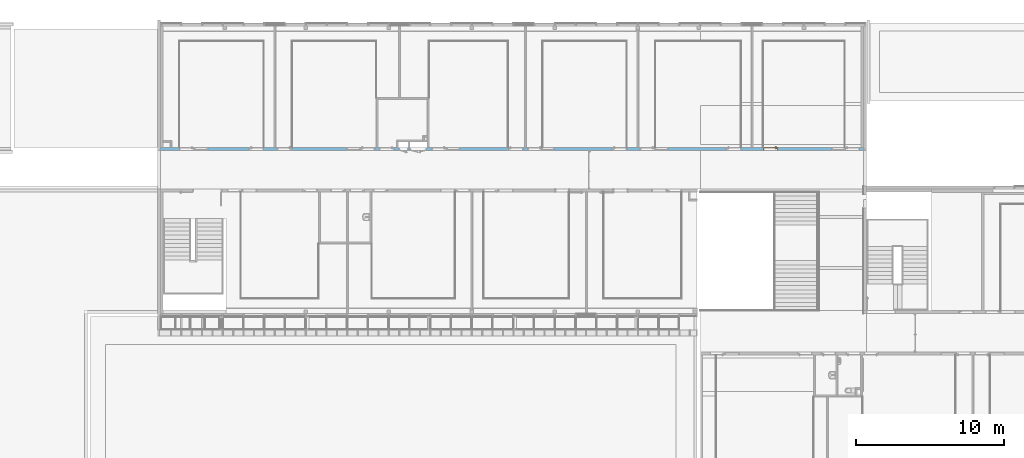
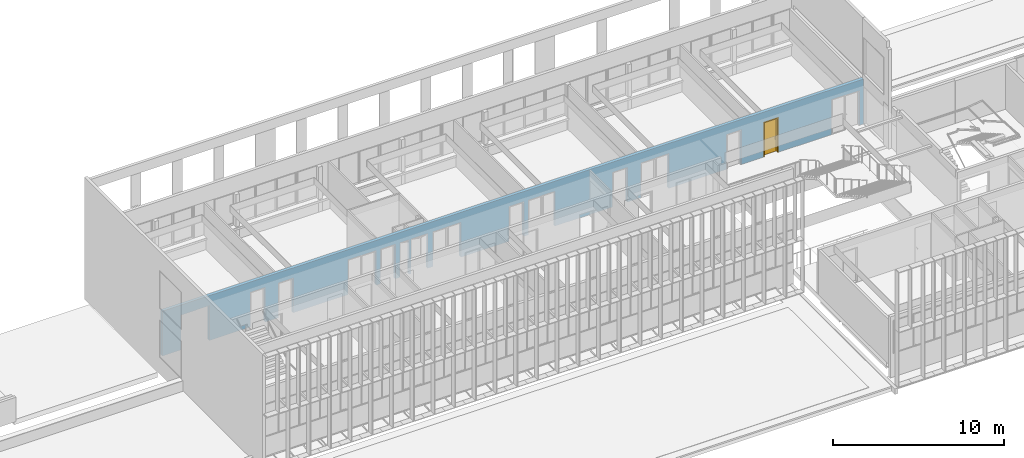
# One storey, part 59 of 106: 1 door, 21 openings, plus 1 element that does not belong to this part.
"""IFC2X3 building model written with IfcOpenShell, lengths in centimetres."""

from ifc_helpers import new_model, entity, si_unit, converted_unit, derived_unit, direction, frame, frame_2d, origin, place, context, subcontext, project, spatial, polyline, rectangle, extrude, clip, bounded_halfspace, faceted_brep, source, transform, mapped, material, material_list, layer, layer_set, layer_usage, type_object, type_shapes, element, fill, save


model = new_model("IFC2X3")

# Units and contexts
model_context = context("Model", 3, precision=0.001, world=origin(), true_north=direction((6.12303176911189e-17, 1.0)))
body_context = subcontext(model_context, "Body", "Model", "MODEL_VIEW")
ifc_project = project(units=[si_unit("LENGTHUNIT", "METRE", prefix="CENTI"), si_unit("AREAUNIT", "SQUARE_METRE"), si_unit("VOLUMEUNIT", "CUBIC_METRE"), converted_unit("PLANEANGLEUNIT", "DEGREE", entity("IfcRatioMeasure", 0.0174532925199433), si_unit("PLANEANGLEUNIT", "RADIAN"), dimensions=[0, 0, 0, 0, 0, 0, 0]), si_unit("MASSUNIT", "GRAM", prefix="KILO"), derived_unit("MASSDENSITYUNIT", [(si_unit("MASSUNIT", "GRAM", prefix="KILO"), 1), (si_unit("LENGTHUNIT", "METRE"), -3)]), si_unit("TIMEUNIT", "SECOND"), si_unit("FREQUENCYUNIT", "HERTZ"), si_unit("THERMODYNAMICTEMPERATUREUNIT", "DEGREE_CELSIUS"), derived_unit("THERMALTRANSMITTANCEUNIT", [(si_unit("MASSUNIT", "GRAM", prefix="KILO"), 1), (si_unit("THERMODYNAMICTEMPERATUREUNIT", "KELVIN"), -1), (si_unit("TIMEUNIT", "SECOND"), -3)]), derived_unit("VOLUMETRICFLOWRATEUNIT", [(si_unit("LENGTHUNIT", "METRE"), 3), (si_unit("TIMEUNIT", "SECOND"), -1)]), si_unit("ELECTRICCURRENTUNIT", "AMPERE"), si_unit("ELECTRICVOLTAGEUNIT", "VOLT"), si_unit("POWERUNIT", "WATT"), si_unit("FORCEUNIT", "NEWTON", prefix="KILO"), si_unit("ILLUMINANCEUNIT", "LUX"), si_unit("LUMINOUSFLUXUNIT", "LUMEN"), si_unit("LUMINOUSINTENSITYUNIT", "CANDELA"), derived_unit("USERDEFINED", [(si_unit("MASSUNIT", "GRAM", prefix="KILO"), -1), (si_unit("LENGTHUNIT", "METRE"), -2), (si_unit("TIMEUNIT", "SECOND"), 3), (si_unit("LUMINOUSFLUXUNIT", "LUMEN"), 1)]), derived_unit("LINEARVELOCITYUNIT", [(si_unit("LENGTHUNIT", "METRE"), 1), (si_unit("TIMEUNIT", "SECOND"), -1)]), si_unit("PRESSUREUNIT", "PASCAL"), derived_unit("USERDEFINED", [(si_unit("LENGTHUNIT", "METRE"), -2), (si_unit("MASSUNIT", "GRAM", prefix="KILO"), 1), (si_unit("TIMEUNIT", "SECOND"), -2)])], contexts=[model_context])

# Site, building, storey
site_placement = place(None, frame((-2781.94577612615, 7442.24238424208, 0.0)))
site = spatial("IfcSite", under=ifc_project, at=site_placement, Name="Default", CompositionType="ELEMENT")
building_placement = place(site_placement, origin())
building = spatial("IfcBuilding", under=site, at=building_placement, CompositionType="ELEMENT")
storey_placement = place(building_placement, frame((0.0, 0.0, 422.0)))
storey = spatial("IfcBuildingStorey", under=building, at=storey_placement, Name="Toiture - Cuisine", CompositionType="ELEMENT", Elevation=421.999999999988)

# Wall, openings, door
ifc_material_1 = material(Name="01 - Maçonnerie")
ifc_layer = layer(ifc_material_1, 20.0)
ifc_layer_set = layer_set([ifc_layer], Name="Mur de base:04 - Structure - béton - 20cm")
ifc_layer_usage = layer_usage(ifc_layer_set, "AXIS2", "NEGATIVE", 10.0)
wall_type = type_object("IfcWallType", Name="Mur de base:04 - Structure - béton - 20cm", PredefinedType="STANDARD", material=ifc_layer_set)
wall_placement = place(building_placement, frame((-8409.49987766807, -820.048500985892, 422.0)))
wall = element("IfcWallStandardCase", 1, at=wall_placement, inside=storey, type_object=wall_type, material=ifc_layer_usage, Name="Mur de base:04 - Structure - béton - 20cm", ObjectType="Mur de base:04 - Structure - béton - 20cm", context=body_context, shape_type="Clipping", body=[
    clip(extrude(rectangle(XDim=4741.49999798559, YDim=20.0, at=frame_2d((2370.74999899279, 2.04281036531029e-14), x_axis=(-1.0, 0.0))), origin(), (0.0, 0.0, 1.0), 321.0), bounded_halfspace(frame((4741.49999798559, -10.0, 321.0), z_axis=(0.0, 0.0, -1.0), x_axis=(0.0, 1.0, 0.0)), True, frame((4741.49999798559, -10.0, 321.0)), polyline([(0.0, 0.0), (0.0, 20.0), (-15.3000000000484, 20.0), (-125.300000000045, 20.0), (-127.300000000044, 20.0), (-675.800000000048, 20.0), (-677.800000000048, 20.0), (-745.800000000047, 20.0), (-755.800000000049, 20.0), (-825.800000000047, 20.0), (-827.800000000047, 20.0), (-1403.80000000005, 20.0), (-1405.80000000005, 20.0), (-1516.49999791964, 20.0), (-1526.49999791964, 20.0), (-1595.78709704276, 20.0), (-1597.78709704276, 20.0), (-2163.80000000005, 20.0), (-2165.80000000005, 20.0), (-2275.80000000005, 20.0), (-2285.80000000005, 20.0), (-2395.80000000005, 20.0), (-2397.80000000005, 20.0), (-2931.80000000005, 20.0), (-2941.80000000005, 20.0), (-3060.80000000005, 20.0), (-3070.80000000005, 20.0), (-3137.80000000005, 20.0), (-3147.80000000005, 20.0), (-3275.80000000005, 20.0), (-3285.80000000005, 20.0), (-3416.49999791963, 20.0), (-3535.80000000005, 20.0), (-3545.80000000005, 20.0), (-3611.80000000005, 20.0), (-3853.80000000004, 20.0), (-3855.80000000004, 20.0), (-3965.80000000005, 20.0), (-3975.80000000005, 20.0), (-4044.30000000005, 20.0), (-4046.30000000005, 20.0), (-4614.19999798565, 20.0), (-4616.19999798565, 20.0), (-4666.19999798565, 20.0), (-4676.19999798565, 20.0), (-4726.19999798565, 20.0), (-4741.49999798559, 20.0), (-4741.49999798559, 0.0), (-1854.0, 0.0), (-1844.0, 0.0), (-1840.0, 0.0), (0.0, 0.0)]))),
])
opening_1_placement = place(wall_placement, frame((1669.50000006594, 10.0, 0.0)))
element("IfcOpeningElement", 2, at=opening_1_placement, cuts=wall, Name="Int. Simple:PP Placard (0.55m x 2.50m):1", ObjectType="Opening", context=body_context, shape_type="SweptSolid", body=[
    extrude(rectangle(XDim=248.500000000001, YDim=61.9999999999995, at=frame_2d((124.250000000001, 30.9999999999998), x_axis=(1.0, 0.0))), frame((0.0, 0.0, 0.0), z_axis=(0.0, -1.0, 0.0), x_axis=(0.0, 0.0, 1.0)), (0.0, 0.0, 1.0), 20.0),
])
opening_2_placement = place(wall_placement, frame((1794.50000006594, 10.0, 0.0)))
element("IfcOpeningElement", 3, at=opening_2_placement, cuts=wall, Name="Int. Double:PP Placard (1.05m x 2.50m):1", ObjectType="Opening", context=body_context, shape_type="SweptSolid", body=[
    extrude(rectangle(XDim=248.500000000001, YDim=112.0, at=frame_2d((124.250000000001, 56.0000000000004), x_axis=(1.0, 0.0))), frame((0.0, 0.0, 0.0), z_axis=(0.0, -1.0, 0.0), x_axis=(0.0, 0.0, 1.0)), (0.0, 0.0, 1.0), 20.0),
])
opening_3_placement = place(wall_placement, frame((126.799999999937, -10.0, 0.0)))
element("IfcOpeningElement", 4, at=opening_3_placement, cuts=wall, Name="Int. Simple:PV (0.93m x 2.50m):1", ObjectType="Opening", context=body_context, shape_type="SweptSolid", body=[
    extrude(rectangle(XDim=248.500000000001, YDim=99.9999999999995, at=frame_2d((124.250000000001, 50.0), x_axis=(1.0, 0.0))), frame((0.0, 0.0, 0.0), z_axis=(0.0, 1.0, 0.0), x_axis=(0.0, 0.0, 1.0)), (0.0, 0.0, 1.0), 20.0),
])
opening_4_placement = place(wall_placement, frame((595.699997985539, -10.0, 0.0)))
element("IfcOpeningElement", 5, at=opening_4_placement, cuts=wall, Name="Int. Simple:PV (0.93m x 2.50m):1", ObjectType="Opening", context=body_context, shape_type="SweptSolid", body=[
    extrude(rectangle(XDim=248.500000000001, YDim=99.9999999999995, at=frame_2d((124.250000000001, 49.9999999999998), x_axis=(1.0, 0.0))), frame((0.0, 0.0, 0.0), z_axis=(0.0, 1.0, 0.0), x_axis=(0.0, 0.0, 1.0)), (0.0, 0.0, 1.0), 20.0),
])
opening_5_placement = place(wall_placement, frame((785.699997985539, -10.0, 0.0)))
element("IfcOpeningElement", 6, at=opening_5_placement, cuts=wall, Name="Int. Simple:PV (0.93m x 2.50m):1", ObjectType="Opening", context=body_context, shape_type="SweptSolid", body=[
    extrude(rectangle(XDim=248.500000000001, YDim=99.9999999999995, at=frame_2d((124.250000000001, 50.0), x_axis=(1.0, 0.0))), frame((0.0, 0.0, 0.0), z_axis=(0.0, 1.0, 0.0), x_axis=(0.0, 0.0, 1.0)), (0.0, 0.0, 1.0), 20.0),
])
opening_6_placement = place(wall_placement, frame((1345.69999798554, -10.0, 0.0)))
element("IfcOpeningElement", 7, at=opening_6_placement, cuts=wall, Name="Int. Simple:PV (0.93m x 2.50m):1", ObjectType="Opening", context=body_context, shape_type="SweptSolid", body=[
    extrude(rectangle(XDim=248.500000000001, YDim=99.9999999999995, at=frame_2d((124.250000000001, 49.9999999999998), x_axis=(1.0, 0.0))), frame((0.0, 0.0, 0.0), z_axis=(0.0, 1.0, 0.0), x_axis=(0.0, 0.0, 1.0)), (0.0, 0.0, 1.0), 20.0),
])
opening_7_placement = place(wall_placement, frame((1475.69999798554, -10.0, 0.0)))
element("IfcOpeningElement", 8, at=opening_7_placement, cuts=wall, Name="Int. Simple:PP simple (0.93m x 2.50m):1", ObjectType="Opening", context=body_context, shape_type="SweptSolid", body=[
    extrude(rectangle(XDim=248.500000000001, YDim=99.9999999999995, at=frame_2d((124.250000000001, 50.0), x_axis=(1.0, 0.0))), frame((0.0, 0.0, 0.0), z_axis=(0.0, 1.0, 0.0), x_axis=(0.0, 0.0, 1.0)), (0.0, 0.0, 1.0), 20.0),
])
opening_8_placement = place(wall_placement, frame((1829.69999798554, -10.0, 0.0)))
element("IfcOpeningElement", 9, at=opening_8_placement, cuts=wall, Name="Int. Simple:PV (0.93m x 2.50m):1", ObjectType="Opening", context=body_context, shape_type="SweptSolid", body=[
    extrude(rectangle(XDim=248.500000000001, YDim=99.9999999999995, at=frame_2d((124.250000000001, 50.0), x_axis=(1.0, 0.0))), frame((0.0, 0.0, 0.0), z_axis=(0.0, 1.0, 0.0), x_axis=(0.0, 0.0, 1.0)), (0.0, 0.0, 1.0), 20.0),
])
opening_9_placement = place(wall_placement, frame((2345.69999798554, -10.0, 0.0)))
element("IfcOpeningElement", 10, at=opening_9_placement, cuts=wall, Name="Int. Simple:PV (0.93m x 2.50m):1", ObjectType="Opening", context=body_context, shape_type="SweptSolid", body=[
    extrude(rectangle(XDim=248.500000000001, YDim=99.9999999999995, at=frame_2d((124.250000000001, 49.9999999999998), x_axis=(1.0, 0.0))), frame((0.0, 0.0, 0.0), z_axis=(0.0, 1.0, 0.0), x_axis=(0.0, 0.0, 1.0)), (0.0, 0.0, 1.0), 20.0),
])
opening_10_placement = place(wall_placement, frame((2475.69999798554, -10.0, 0.0)))
element("IfcOpeningElement", 11, at=opening_10_placement, cuts=wall, Name="Int. Simple:PV (0.93m x 2.50m):1", ObjectType="Opening", context=body_context, shape_type="SweptSolid", body=[
    extrude(rectangle(XDim=248.500000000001, YDim=99.9999999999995, at=frame_2d((124.250000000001, 50.0), x_axis=(1.0, 0.0))), frame((0.0, 0.0, 0.0), z_axis=(0.0, 1.0, 0.0), x_axis=(0.0, 0.0, 1.0)), (0.0, 0.0, 1.0), 20.0),
])
opening_11_placement = place(wall_placement, frame((3045.69999798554, -10.0, 0.0)))
element("IfcOpeningElement", 12, at=opening_11_placement, cuts=wall, Name="Int. Simple:PV (0.93m x 2.50m):1", ObjectType="Opening", context=body_context, shape_type="SweptSolid", body=[
    extrude(rectangle(XDim=248.500000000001, YDim=99.9999999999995, at=frame_2d((124.250000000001, 49.9999999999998), x_axis=(1.0, 0.0))), frame((0.0, 0.0, 0.0), z_axis=(0.0, 1.0, 0.0), x_axis=(0.0, 0.0, 1.0)), (0.0, 0.0, 1.0), 20.0),
])
opening_12_placement = place(wall_placement, frame((3235.69999798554, -10.0, 0.0)))
element("IfcOpeningElement", 13, at=opening_12_placement, cuts=wall, Name="Int. Simple:PV (0.93m x 2.50m):1", ObjectType="Opening", context=body_context, shape_type="SweptSolid", body=[
    extrude(rectangle(XDim=248.500000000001, YDim=99.9999999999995, at=frame_2d((124.250000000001, 50.0), x_axis=(1.0, 0.0))), frame((0.0, 0.0, 0.0), z_axis=(0.0, 1.0, 0.0), x_axis=(0.0, 0.0, 1.0)), (0.0, 0.0, 1.0), 20.0),
])
opening_13_placement = place(wall_placement, frame((3815.69999798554, -10.0, 0.0)))
element("IfcOpeningElement", 14, at=opening_13_placement, cuts=wall, Name="Int. Simple:PV (0.93m x 2.50m):1", ObjectType="Opening", context=body_context, shape_type="SweptSolid", body=[
    extrude(rectangle(XDim=248.500000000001, YDim=99.9999999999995, at=frame_2d((124.250000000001, 49.9999999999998), x_axis=(1.0, 0.0))), frame((0.0, 0.0, 0.0), z_axis=(0.0, 1.0, 0.0), x_axis=(0.0, 0.0, 1.0)), (0.0, 0.0, 1.0), 20.0),
])
opening_14_placement = place(wall_placement, frame((4065.69999798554, -10.0, 0.0)))
opening_14 = element("IfcOpeningElement", 15, at=opening_14_placement, cuts=wall, Name="Int. Simple:PV (0.93m x 2.50m):1", ObjectType="Opening", context=body_context, shape_type="SweptSolid", body=[
    extrude(rectangle(XDim=248.500000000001, YDim=99.9999999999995, at=frame_2d((124.250000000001, 50.0), x_axis=(1.0, 0.0))), frame((0.0, 0.0, 0.0), z_axis=(0.0, 1.0, 0.0), x_axis=(0.0, 0.0, 1.0)), (0.0, 0.0, 1.0), 20.0),
])
opening_15_placement = place(wall_placement, frame((4616.19999798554, -10.0, 0.0)))
element("IfcOpeningElement", 16, at=opening_15_placement, cuts=wall, Name="Int. Simple:PV (0.93m x 2.50m):1", ObjectType="Opening", context=body_context, shape_type="SweptSolid", body=[
    extrude(rectangle(XDim=248.500000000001, YDim=99.9999999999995, at=frame_2d((124.250000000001, 49.9999999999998), x_axis=(1.0, 0.0))), frame((0.0, 0.0, 0.0), z_axis=(0.0, 1.0, 0.0), x_axis=(0.0, 0.0, 1.0)), (0.0, 0.0, 1.0), 20.0),
])
opening_16_placement = place(wall_placement, frame((1255.69999798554, -10.0, 0.0)))
element("IfcOpeningElement", 17, at=opening_16_placement, cuts=wall, Name="châssis intérieur vitré:châssis intérieur vitré (h=270) R+1:1", ObjectType="Opening", context=body_context, shape_type="SweptSolid", body=[
    extrude(rectangle(XDim=250.0, YDim=89.9999999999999, at=frame_2d((125.0, 45.0), x_axis=(1.0, 0.0))), frame((0.0, 0.0, 0.0), z_axis=(0.0, 1.0, 0.0), x_axis=(0.0, 0.0, 1.0)), (0.0, 0.0, 1.0), 20.0),
])
opening_17_placement = place(wall_placement, frame((1929.69999798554, -10.0, 0.0)))
element("IfcOpeningElement", 18, at=opening_17_placement, cuts=wall, Name="châssis intérieur vitré:châssis intérieur vitré (h=270) R+1:1", ObjectType="Opening", context=body_context, shape_type="SweptSolid", body=[
    extrude(rectangle(XDim=250.0, YDim=89.9999999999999, at=frame_2d((125.0, 45.0), x_axis=(1.0, 0.0))), frame((0.0, 0.0, 0.0), z_axis=(0.0, 1.0, 0.0), x_axis=(0.0, 0.0, 1.0)), (0.0, 0.0, 1.0), 20.0),
])
opening_18_placement = place(wall_placement, frame((4526.19999798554, -10.0, 0.0)))
element("IfcOpeningElement", 19, at=opening_18_placement, cuts=wall, Name="châssis intérieur vitré:châssis intérieur vitré (h=270) R+1:1", ObjectType="Opening", context=body_context, shape_type="SweptSolid", body=[
    extrude(rectangle(XDim=250.0, YDim=89.9999999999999, at=frame_2d((125.0, 45.0000000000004), x_axis=(1.0, 0.0))), frame((0.0, 0.0, 0.0), z_axis=(0.0, 1.0, 0.0), x_axis=(0.0, 0.0, 1.0)), (0.0, 0.0, 1.0), 20.0),
])
opening_19_placement = place(wall_placement, frame((3335.69999798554, -10.0, 0.0)))
element("IfcOpeningElement", 20, at=opening_19_placement, cuts=wall, Name="châssis intérieur vitré:châssis intérieur vitré (h=270) R+1:1", ObjectType="Opening", context=body_context, shape_type="SweptSolid", body=[
    extrude(rectangle(XDim=250.0, YDim=89.9999999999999, at=frame_2d((125.0, 45.0000000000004), x_axis=(1.0, 0.0))), frame((0.0, 0.0, 0.0), z_axis=(0.0, 1.0, 0.0), x_axis=(0.0, 0.0, 1.0)), (0.0, 0.0, 1.0), 20.0),
])
opening_20_placement = place(wall_placement, frame((2565.69999798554, -10.0, 0.0)))
element("IfcOpeningElement", 21, at=opening_20_placement, cuts=wall, Name="châssis intérieur vitré:châssis intérieur vitré (h=270) R+1:1", ObjectType="Opening", context=body_context, shape_type="SweptSolid", body=[
    extrude(rectangle(XDim=250.0, YDim=89.9999999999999, at=frame_2d((125.0, 45.0000000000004), x_axis=(1.0, 0.0))), frame((0.0, 0.0, 0.0), z_axis=(0.0, 1.0, 0.0), x_axis=(0.0, 0.0, 1.0)), (0.0, 0.0, 1.0), 20.0),
])
opening_21_placement = place(wall_placement, frame((226.799999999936, -10.0, 0.0)))
element("IfcOpeningElement", 22, at=opening_21_placement, cuts=wall, Name="châssis intérieur vitré:châssis intérieur vitré (h=270) R+1:1", ObjectType="Opening", context=body_context, shape_type="SweptSolid", body=[
    extrude(rectangle(XDim=250.0, YDim=91.4999999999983, at=frame_2d((125.0, 45.7499999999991), x_axis=(1.0, 0.0))), frame((0.0, 0.0, 0.0), z_axis=(0.0, 1.0, 0.0), x_axis=(0.0, 0.0, 1.0)), (0.0, 0.0, 1.0), 20.0),
])
ifc_material_2 = material(Name="Finition Peinture - Blanc satiné")
ifc_material_3 = material(Name="Bois - Panneau de porte")
ifc_material_4 = material(Name="Bois - Cadre de porte")
ifc_material_list_1 = material_list([ifc_material_2, ifc_material_3, ifc_material_4])
ifc_material_list_2 = material_list([ifc_material_2, ifc_material_3, ifc_material_4])
door_style = type_object("IfcDoorStyle", Name="PV (0.93m x 2.50m)", ConstructionType="NOTDEFINED", OperationType="SINGLE_SWING_LEFT", ParameterTakesPrecedence=False, Sizeable=False, material=ifc_material_list_2)
shared_shape = source(origin(), body_context, "Body", "Brep", [
    faceted_brep([(10.5352761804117, -0.500000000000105, 86.6003983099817), (11.5000000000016, -0.500000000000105, 87.0), (11.5000000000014, -0.500000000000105, 108.0), (10.5352761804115, -0.500000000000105, 108.399601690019), (9.50000000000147, -0.500000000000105, 108.535898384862), (8.46472381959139, -0.500000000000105, 108.399601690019), (7.50000000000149, -0.500000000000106, 108.0), (7.50000000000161, -0.500000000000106, 87.0), (8.46472381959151, -0.500000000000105, 86.6003983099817), (9.50000000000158, -0.500000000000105, 86.464101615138), (10.5352761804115, 0.0, 108.399601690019), (11.5000000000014, 0.0, 108.0), (11.5000000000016, 0.0, 87.0), (10.5352761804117, 0.0, 86.6003983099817), (9.50000000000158, 0.0, 86.464101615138), (8.46472381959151, 0.0, 86.6003983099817), (7.50000000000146, 0.0, 87.0), (7.50000000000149, 0.0, 108.0), (8.46472381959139, 0.0, 108.399601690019), (9.50000000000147, 0.0, 108.535898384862)], [[[0, 1, 2, 3, 4, 5, 6, 7, 8, 9]], [[10, 11, 12, 13, 14, 15, 16, 17, 18, 19]], [[16, 15, 8, 7]], [[8, 15, 14, 9]], [[14, 13, 0, 9]], [[13, 12, 1, 0]], [[2, 1, 12, 11]], [[11, 10, 3, 2]], [[3, 10, 19, 4]], [[19, 18, 5, 4]], [[18, 17, 6, 5]], [[7, 6, 17, 16]]]),
    faceted_brep([(10.5352761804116, 4.0, 86.6003983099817), (11.5000000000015, 4.0, 87.0), (11.5000000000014, 4.0, 108.0), (10.5352761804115, 4.0, 108.399601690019), (9.50000000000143, 4.0, 108.535898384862), (8.46472381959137, 4.0, 108.399601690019), (7.50000000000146, 4.0, 108.0), (7.50000000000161, 4.0, 87.0), (8.46472381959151, 4.0, 86.6003983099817), (9.50000000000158, 4.0, 86.464101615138), (10.5352761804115, 4.49999999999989, 108.399601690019), (11.5000000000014, 4.49999999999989, 108.0), (11.5000000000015, 4.49999999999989, 87.0), (10.5352761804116, 4.49999999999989, 86.6003983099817), (9.50000000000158, 4.49999999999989, 86.464101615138), (8.46472381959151, 4.49999999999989, 86.6003983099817), (7.50000000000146, 4.49999999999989, 87.0), (7.50000000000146, 4.49999999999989, 108.0), (8.46472381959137, 4.49999999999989, 108.399601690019), (9.50000000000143, 4.49999999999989, 108.535898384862)], [[[0, 1, 2, 3, 4, 5, 6, 7, 8, 9]], [[10, 11, 12, 13, 14, 15, 16, 17, 18, 19]], [[11, 10, 3, 2]], [[3, 10, 19, 4]], [[19, 18, 5, 4]], [[18, 17, 6, 5]], [[7, 6, 17, 16]], [[16, 15, 8, 7]], [[8, 15, 14, 9]], [[14, 13, 0, 9]], [[13, 12, 1, 0]], [[2, 1, 12, 11]]]),
    faceted_brep([(9.29747013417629, -0.500000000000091, 100.778044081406), (9.70252986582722, -0.500000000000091, 100.778044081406), (10.1000000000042, -0.500000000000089, 100.699999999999), (10.1000000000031, -0.500000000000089, 99.3000000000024), (9.7025298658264, -0.500000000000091, 99.2219559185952), (9.29747013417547, -0.500000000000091, 99.221955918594), (8.8999999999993, -0.500000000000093, 99.2999999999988), (8.89999999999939, -0.500000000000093, 100.7), (8.89999999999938, -3.26509507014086, 100.7), (9.29747013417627, -3.10045754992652, 100.778044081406), (10.9023585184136, -4.70534593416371, 100.778044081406), (11.0701397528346, -4.30028620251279, 100.778044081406), (9.7025298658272, -2.93267631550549, 100.778044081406), (10.1000000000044, -2.76803879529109, 100.7), (10.1000000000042, -2.76803879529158, 99.3000000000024), (9.7025298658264, -2.93267631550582, 99.2219559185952), (11.0701397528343, -4.30028620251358, 99.2219559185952), (10.9023585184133, -4.70534593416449, 99.221955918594), (9.29747013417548, -3.10045754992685, 99.221955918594), (8.89999999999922, -3.26509507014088, 99.2999999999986), (10.7377209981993, -5.10281606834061, 100.7), (11.2347772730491, -3.90281606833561, 100.7), (11.2347772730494, -3.90281606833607, 99.3000000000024), (10.7377209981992, -5.10281606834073, 99.2999999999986), (19.5018640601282, -5.1028160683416, 99.2999999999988), (19.5018640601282, -4.70534593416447, 99.221955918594), (19.5018640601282, -4.30028620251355, 99.2219559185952), (19.5018640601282, -3.90281606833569, 99.3000000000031), (19.5018640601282, -3.90281606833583, 100.7), (19.5018640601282, -4.30028620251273, 100.778044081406), (19.5018640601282, -4.70534593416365, 100.778044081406), (19.5018640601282, -5.10281606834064, 100.699999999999), (14.7307697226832, -5.10281606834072, 100.7), (15.2860019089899, -4.5028160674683, 100.78786867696), (15.3683206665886, -3.9028160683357, 100.7), (15.3683206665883, -3.90281606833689, 99.3000000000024), (15.2860018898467, -4.50281607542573, 99.2121313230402), (14.7307700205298, -5.10281606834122, 99.2999999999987)], [[[0, 1, 2, 3, 4, 5, 6, 7]], [[8, 9, 0, 7]], [[9, 10, 11, 12, 1, 0]], [[12, 13, 2, 1]], [[3, 2, 13, 14]], [[14, 15, 4, 3]], [[15, 16, 17, 18, 5, 4]], [[18, 19, 6, 5]], [[7, 6, 19, 8]], [[20, 10, 9, 8]], [[11, 21, 13, 12]], [[14, 13, 21, 22]], [[22, 16, 15, 14]], [[17, 23, 19, 18]], [[8, 19, 23, 20]], [[24, 25, 26, 27, 28, 29, 30, 31]], [[32, 30, 33]], [[31, 30, 32]], [[10, 20, 32]], [[33, 34, 11]], [[21, 11, 34]], [[34, 29, 28]], [[30, 29, 33]], [[29, 34, 33]], [[10, 32, 33]], [[10, 33, 11]], [[22, 21, 34, 28, 27, 35]], [[35, 26, 36]], [[37, 36, 25]], [[22, 35, 16]], [[35, 27, 26]], [[24, 37, 25]], [[23, 17, 37]], [[37, 17, 36]], [[17, 16, 36]], [[16, 35, 36]], [[25, 36, 26]], [[20, 23, 37, 24, 31, 32]]]),
    faceted_brep([(9.29747013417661, 4.49999999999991, 100.778044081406), (8.89999999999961, 4.4999999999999, 100.7), (8.89999999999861, 4.4999999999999, 99.2999999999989), (9.29747013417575, 4.49999999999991, 99.221955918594), (9.70252986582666, 4.49999999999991, 99.2219559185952), (10.1000000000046, 4.49999999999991, 99.3000000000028), (10.1000000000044, 4.49999999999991, 100.7), (9.70252986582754, 4.49999999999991, 100.778044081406), (10.1000000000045, 6.7485204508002, 99.3000000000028), (10.1000000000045, 6.74852045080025, 100.7), (9.70252986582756, 6.91315797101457, 100.778044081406), (11.083890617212, 8.29451872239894, 100.778044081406), (10.916109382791, 8.69957845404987, 100.778044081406), (9.29747013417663, 7.0809392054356, 100.778044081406), (8.89999999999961, 7.24557672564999, 100.7), (8.89999999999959, 7.2455767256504, 99.2999999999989), (9.29747013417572, 7.08093920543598, 99.221955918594), (10.9161093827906, 8.69957845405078, 99.221955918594), (11.0838906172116, 8.29451872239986, 99.2219559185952), (9.70252986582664, 6.91315797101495, 99.2219559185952), (11.2485281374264, 7.89704858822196, 99.3000000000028), (11.2485281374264, 7.89704858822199, 100.7), (10.7514718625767, 9.09704858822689, 100.7), (10.7514718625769, 9.0970485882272, 99.2999999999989), (19.5045783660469, 7.89704858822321, 99.3000000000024), (19.5045783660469, 8.29451872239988, 99.2219559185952), (19.5045783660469, 8.6995784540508, 99.221955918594), (19.5045783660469, 9.09704858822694, 99.2999999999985), (19.5045783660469, 9.09704858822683, 100.7), (19.5045783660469, 8.69957845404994, 100.778044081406), (19.5045783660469, 8.29451872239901, 100.778044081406), (19.5045783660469, 7.89704858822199, 100.7), (15.3765520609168, 7.89704858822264, 99.3000000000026), (15.3765532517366, 7.89704858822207, 100.7), (15.294234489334, 8.49704858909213, 100.78786867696), (14.7445205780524, 9.09704858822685, 100.7), (14.7445204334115, 9.09704858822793, 99.2999999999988), (15.2942345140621, 8.49704858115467, 99.2121313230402)], [[[0, 1, 2, 3, 4, 5, 6, 7]], [[6, 5, 8, 9]], [[9, 10, 7, 6]], [[10, 11, 12, 13, 0, 7]], [[13, 14, 1, 0]], [[2, 1, 14, 15]], [[15, 16, 3, 2]], [[16, 17, 18, 19, 4, 3]], [[19, 8, 5, 4]], [[9, 8, 20, 21]], [[21, 11, 10, 9]], [[12, 22, 14, 13]], [[15, 14, 22, 23]], [[23, 17, 16, 15]], [[18, 20, 8, 19]], [[24, 25, 26, 27, 28, 29, 30, 31]], [[21, 20, 32, 24, 31, 33]], [[33, 30, 34]], [[35, 34, 29]], [[21, 33, 11]], [[33, 31, 30]], [[28, 35, 29]], [[22, 12, 35]], [[35, 12, 34]], [[12, 11, 34]], [[11, 33, 34]], [[29, 34, 30]], [[22, 35, 28, 27, 36, 23]], [[36, 26, 37]], [[27, 26, 36]], [[17, 23, 36]], [[37, 32, 18]], [[20, 18, 32]], [[32, 25, 24]], [[26, 25, 37]], [[25, 32, 37]], [[17, 36, 37]], [[17, 37, 18]]]),
    faceted_brep([(3.50000000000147, 4.0, 245.0), (96.5000000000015, 4.0, 245.0), (96.5000000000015, 4.0, 0.0), (3.50000000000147, 4.0, 0.0), (3.50000000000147, 0.0, 245.0), (3.50000000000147, 0.0, 0.0), (96.5000000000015, 0.0, 0.0), (96.5000000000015, 0.0, 245.0)], [[[0, 1, 2, 3]], [[4, 5, 6, 7]], [[1, 0, 4, 7]], [[2, 1, 7, 6]], [[3, 2, 6, 5]], [[0, 3, 5, 4]]]),
    faceted_brep([(0.0, 20.0, 0.0), (-1.50000000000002, 20.0, 0.0), (-1.50000000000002, 20.5000000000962, 0.0), (5.0, 20.5000000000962, 0.0), (5.0, 4.0, 0.0), (3.50000000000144, 4.0, 0.0), (3.50000000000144, -0.500000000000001, 0.0), (-1.50000000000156, -0.500000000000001, 0.0), (-1.50000000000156, 0.0, 0.0), (0.0, 0.0, 0.0), (0.0, 20.0, 248.500000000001), (100.0, 20.0, 248.500000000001), (100.0, 20.0, 0.0), (101.5, 20.0, 0.0), (101.5, 20.0, 250.0), (-1.50000000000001, 20.0, 250.0), (-1.50000000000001, 20.5000000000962, 250.0), (101.5, 20.5000000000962, 250.0), (101.5, 20.5000000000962, 0.0), (95.0, 20.5000000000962, 0.0), (95.0, 20.5000000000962, 243.5), (5.0, 20.5000000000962, 243.5), (5.0, 4.0, 243.5), (95.0, 4.0, 243.5), (95.0, 4.0, 0.0), (96.499999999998, 4.0, 0.0), (96.499999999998, 4.0, 245.0), (3.50000000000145, 4.0, 245.0), (3.50000000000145, -0.500000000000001, 245.0), (96.499999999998, -0.500000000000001, 245.0), (96.499999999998, -0.500000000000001, 0.0), (101.500000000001, -0.500000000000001, 0.0), (101.500000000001, -0.500000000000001, 250.0), (-1.50000000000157, -0.500000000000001, 250.0), (-1.50000000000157, 0.0, 250.0), (101.500000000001, 0.0, 250.0), (101.500000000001, 0.0, 0.0), (100.0, 0.0, 0.0), (100.0, 0.0, 248.500000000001), (0.0, 0.0, 248.500000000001)], [[[0, 1, 2, 3, 4, 5, 6, 7, 8, 9]], [[1, 0, 10, 11, 12, 13, 14, 15]], [[2, 1, 15, 16]], [[3, 2, 16, 17, 18, 19, 20, 21]], [[3, 21, 22, 4]], [[5, 4, 22, 23, 24, 25, 26, 27]], [[5, 27, 28, 6]], [[7, 6, 28, 29, 30, 31, 32, 33]], [[8, 7, 33, 34]], [[9, 8, 34, 35, 36, 37, 38, 39]], [[0, 9, 39, 10]], [[11, 38, 37, 12]], [[12, 37, 36, 31, 30, 25, 24, 19, 18, 13]], [[17, 14, 13, 18]], [[23, 20, 19, 24]], [[29, 26, 25, 30]], [[35, 32, 31, 36]], [[16, 15, 14, 17]], [[22, 21, 20, 23]], [[28, 27, 26, 29]], [[34, 33, 32, 35]], [[10, 39, 38, 11]]]),
])
type_shapes(door_style, [shared_shape])
door_placement = place(opening_14_placement, frame((100.0, 20.0, 0.0), z_axis=(0.0, 0.0, 1.0), x_axis=(-1.0, 0.0, 0.0)))
door = element("IfcDoor", 23, at=door_placement, inside=storey, type_object=door_style, material=ifc_material_list_1, Name="Int. Simple:PV (0.93m x 2.50m)", ObjectType="Int. Simple:PV (0.93m x 2.50m)", OverallHeight=248.500000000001, OverallWidth=99.9999999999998, context=body_context, shape_type="MappedRepresentation", body=[
    mapped(shared_shape, transform((0.0, 0.0, 0.0), scale=1.0)),
])
fill(opening_14, door)

save(model, "model.ifc")
